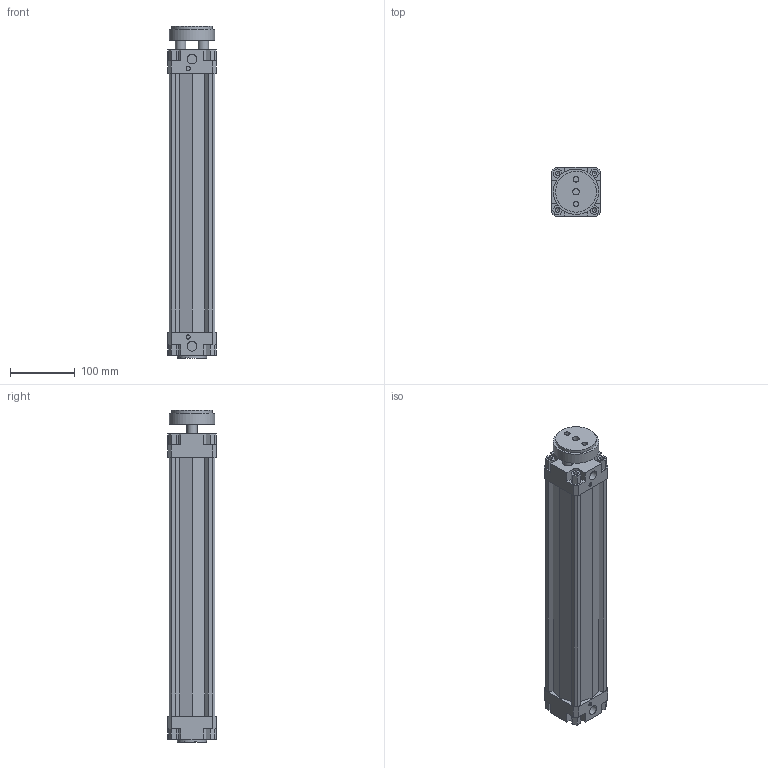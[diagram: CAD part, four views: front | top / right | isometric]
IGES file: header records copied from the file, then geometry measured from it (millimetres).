
Global section: file name: 132#_063_0350_01; native system: Autodesk Inventor 2014; preprocessor: unknown; author: A. Manieri; date: 20161006.160031; units: millimetre
Bounding box: 75 x 75 x 512 mm (x, y, z)
Volume: 1249421.4 mm3; surface area: 321074.7 mm2
Topology: 2 solids, 2 shells, 180 faces, 491 edges, 335 vertices
Faces by surface type: bspline 180
